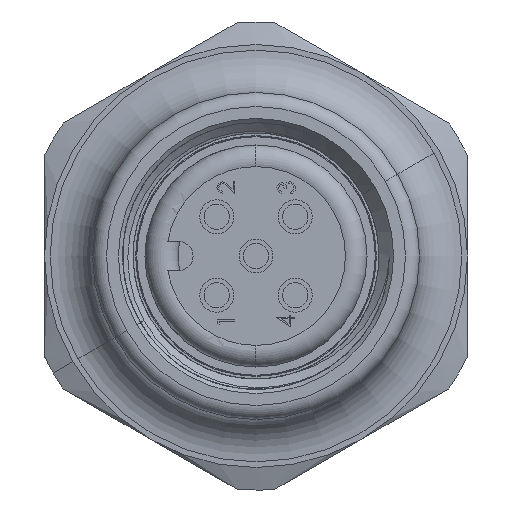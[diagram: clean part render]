
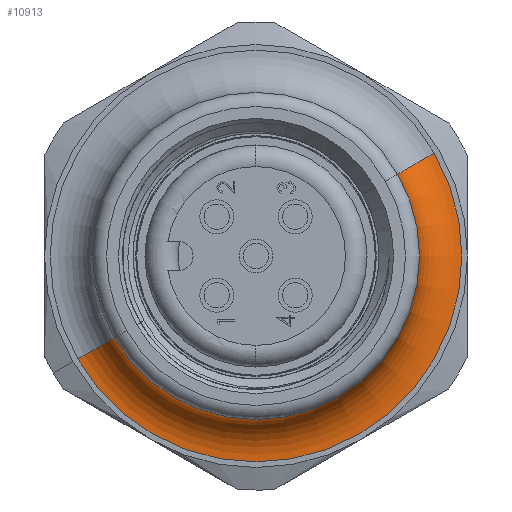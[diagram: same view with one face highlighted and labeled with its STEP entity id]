
A CAD part, left-side view. The second image highlights one B-rep face of the part: STEP entity #10913.
In plain terms, the highlighted toroidal (fillet/blend) face has major radius 9.271 mm and minor radius 1.905 mm.
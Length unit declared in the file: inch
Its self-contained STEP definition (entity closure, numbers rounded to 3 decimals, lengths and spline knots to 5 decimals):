
#62 = EDGE_LOOP ( 'NONE', ( #201, #181, #190, #187 ) ) ;
#137 = FACE_OUTER_BOUND ( 'NONE', #62, .T. ) ;
#181 = ORIENTED_EDGE ( 'NONE', *, *, #17244, .T. ) ;
#187 = ORIENTED_EDGE ( 'NONE', *, *, #17295, .F. ) ;
#190 = ORIENTED_EDGE ( 'NONE', *, *, #17308, .T. ) ;
#201 = ORIENTED_EDGE ( 'NONE', *, *, #17301, .F. ) ;
#411 = VERTEX_POINT ( 'NONE', #1541 ) ;
#413 = VERTEX_POINT ( 'NONE', #1539 ) ;
#435 = VERTEX_POINT ( 'NONE', #1517 ) ;
#448 = VERTEX_POINT ( 'NONE', #1506 ) ;
#1227 = DIRECTION ( 'NONE',  ( -1., 0., 0. ) ) ;
#1232 = DIRECTION ( 'NONE',  ( 0., -0.866, 0.5 ) ) ;
#1274 = CARTESIAN_POINT ( 'NONE',  ( 0.366, 0., 0. ) ) ;
#1506 = CARTESIAN_POINT ( 'NONE',  ( 0.441, 0.3161, -0.1825 ) ) ;
#1517 = CARTESIAN_POINT ( 'NONE',  ( 0.366, -0.25115, 0.145 ) ) ;
#1539 = CARTESIAN_POINT ( 'NONE',  ( 0.441, -0.3161, 0.1825 ) ) ;
#1541 = CARTESIAN_POINT ( 'NONE',  ( 0.366, 0.25115, -0.145 ) ) ;
#4954 = CARTESIAN_POINT ( 'NONE',  ( 0.366, 0.3161, -0.1825 ) ) ;
#4955 = DIRECTION ( 'NONE',  ( 0., 0.5, 0.866 ) ) ;
#4956 = DIRECTION ( 'NONE',  ( 0., -0.866, 0.5 ) ) ;
#5357 = CARTESIAN_POINT ( 'NONE',  ( 0.366, -0.3161, 0.1825 ) ) ;
#5358 = DIRECTION ( 'NONE',  ( 0., -0.5, -0.866 ) ) ;
#5359 = DIRECTION ( 'NONE',  ( 0., 0.866, -0.5 ) ) ;
#5398 = CARTESIAN_POINT ( 'NONE',  ( 0.366, 0., 0. ) ) ;
#5399 = DIRECTION ( 'NONE',  ( -1., 0., 0. ) ) ;
#5400 = DIRECTION ( 'NONE',  ( 0., -0.866, 0.5 ) ) ;
#5423 = CARTESIAN_POINT ( 'NONE',  ( 0.441, 0., 0. ) ) ;
#5424 = DIRECTION ( 'NONE',  ( -1., 0., 0. ) ) ;
#5425 = DIRECTION ( 'NONE',  ( 0., -0.866, 0.5 ) ) ;
#10913 = ADVANCED_FACE ( 'NONE', ( #137 ), #14472, .F. ) ;
#12205 = CIRCLE ( 'NONE', #12208, 0.075 ) ;
#12208 = AXIS2_PLACEMENT_3D ( 'NONE', #5357, #5358, #5359 ) ;
#13228 = CIRCLE ( 'NONE', #13229, 0.075 ) ;
#13229 = AXIS2_PLACEMENT_3D ( 'NONE', #4954, #4955, #4956 ) ;
#14470 = AXIS2_PLACEMENT_3D ( 'NONE', #1274, #1227, #1232 ) ;
#14472 = TOROIDAL_SURFACE ( 'NONE', #14470, 0.365, 0.075 ) ;
#15168 = CIRCLE ( 'NONE', #15319, 0.29 ) ;
#15319 = AXIS2_PLACEMENT_3D ( 'NONE', #5398, #5399, #5400 ) ;
#15329 = CIRCLE ( 'NONE', #15330, 0.365 ) ;
#15330 = AXIS2_PLACEMENT_3D ( 'NONE', #5423, #5424, #5425 ) ;
#17244 = EDGE_CURVE ( 'NONE', #411, #448, #13228, .T. ) ;
#17295 = EDGE_CURVE ( 'NONE', #435, #413, #12205, .T. ) ;
#17301 = EDGE_CURVE ( 'NONE', #411, #435, #15168, .T. ) ;
#17308 = EDGE_CURVE ( 'NONE', #448, #413, #15329, .T. ) ;
